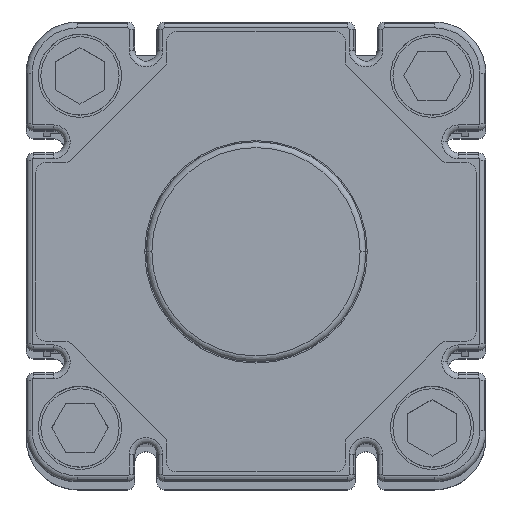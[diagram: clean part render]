
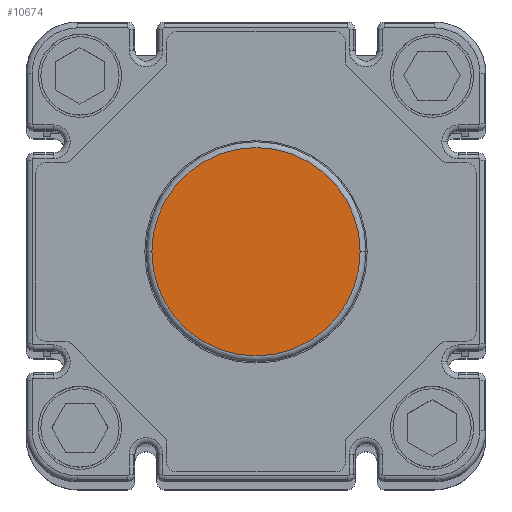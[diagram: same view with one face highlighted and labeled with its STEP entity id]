
A CAD part, top view. The second image highlights one B-rep face of the part: STEP entity #10674.
In plain terms, the highlighted planar face has unit normal (0, 0, 1).
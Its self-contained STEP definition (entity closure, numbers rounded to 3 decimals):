
#4200=CARTESIAN_POINT('',(-21.3,0.,948.5));
#4201=VERTEX_POINT('',#4200);
#4209=CARTESIAN_POINT('',(21.3,0.,948.5));
#4210=VERTEX_POINT('',#4209);
#4211=CARTESIAN_POINT('',(0.,0.,948.5));
#4212=DIRECTION('',(0.0,0.0,-1.0));
#4213=DIRECTION('',(-1.0,0.0,0.0));
#4214=AXIS2_PLACEMENT_3D('',#4211,#4212,#4213);
#4215=CIRCLE('',#4214,21.3);
#4216=EDGE_CURVE('',#4201,#4210,#4215,.T.);
#10643=CARTESIAN_POINT('',(0.,0.,948.5));
#10644=DIRECTION('',(0.0,0.0,-1.0));
#10645=DIRECTION('',(-1.0,0.0,0.0));
#10646=AXIS2_PLACEMENT_3D('',#10643,#10644,#10645);
#10647=CIRCLE('',#10646,21.3);
#10648=EDGE_CURVE('',#4210,#4201,#10647,.T.);
#10665=CARTESIAN_POINT('',(21.25,-21.25,948.5));
#10666=DIRECTION('',(0.0,0.0,1.0));
#10667=DIRECTION('',(1.0,0.0,0.0));
#10668=AXIS2_PLACEMENT_3D('',#10665,#10666,#10667);
#10669=PLANE('',#10668);
#10670=ORIENTED_EDGE('',*,*,#10648,.F.);
#10671=ORIENTED_EDGE('',*,*,#4216,.F.);
#10672=EDGE_LOOP('',(#10670,#10671));
#10673=FACE_OUTER_BOUND('',#10672,.T.);
#10674=ADVANCED_FACE('',(#10673),#10669,.T.);
